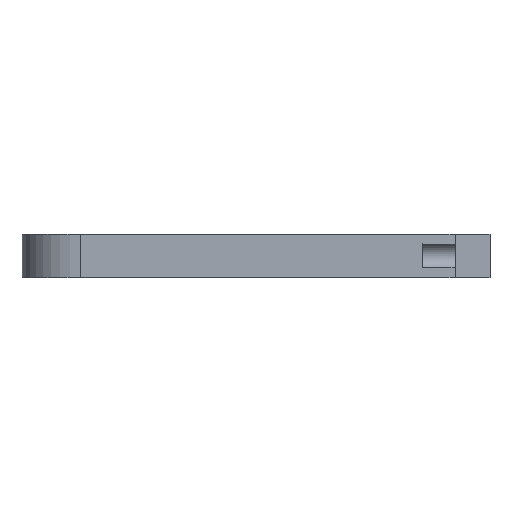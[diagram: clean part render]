
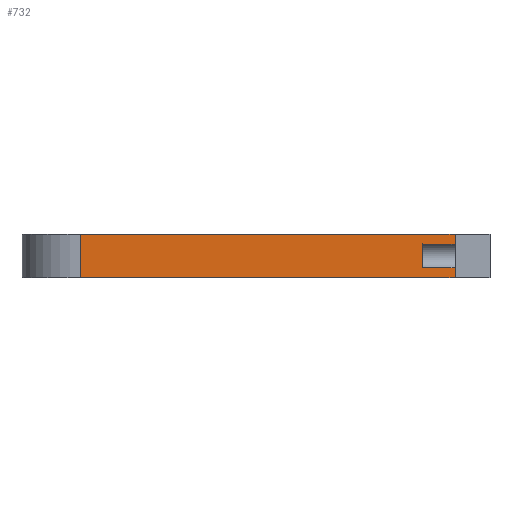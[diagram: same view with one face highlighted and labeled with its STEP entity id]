
A CAD part, front view. The second image highlights one B-rep face of the part: STEP entity #732.
In plain terms, the highlighted planar face has unit normal (0, -1, 0).
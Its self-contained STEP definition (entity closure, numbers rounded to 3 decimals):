
#42 = VERTEX_POINT('',#43);
#43 = CARTESIAN_POINT('',(-3.,-8.5,9.6));
#50 = PLANE('',#51);
#51 = AXIS2_PLACEMENT_3D('',#52,#53,#54);
#52 = CARTESIAN_POINT('',(-3.,-12.,4.8));
#53 = DIRECTION('',(1.,0.,0.));
#54 = DIRECTION('',(0.,0.,1.));
#62 = PLANE('',#63);
#63 = AXIS2_PLACEMENT_3D('',#64,#65,#66);
#64 = CARTESIAN_POINT('',(-3.,-12.,9.6));
#65 = DIRECTION('',(0.,0.,1.));
#66 = DIRECTION('',(1.,0.,-0.));
#441 = VERTEX_POINT('',#442);
#442 = CARTESIAN_POINT('',(-3.,-8.5,61.));
#456 = PLANE('',#457);
#457 = AXIS2_PLACEMENT_3D('',#458,#459,#460);
#458 = CARTESIAN_POINT('',(-3.,-8.5,61.));
#459 = DIRECTION('',(0.,0.,1.));
#460 = DIRECTION('',(1.,0.,-0.));
#468 = EDGE_CURVE('',#42,#441,#469,.T.);
#469 = SURFACE_CURVE('',#470,(#474,#481),.PCURVE_S1.);
#470 = LINE('',#471,#472);
#471 = CARTESIAN_POINT('',(-3.,-8.5,4.8));
#472 = VECTOR('',#473,1.);
#473 = DIRECTION('',(0.,0.,1.));
#474 = PCURVE('',#50,#475);
#475 = DEFINITIONAL_REPRESENTATION('',(#476),#480);
#476 = LINE('',#477,#478);
#477 = CARTESIAN_POINT('',(0.,-3.5));
#478 = VECTOR('',#479,1.);
#479 = DIRECTION('',(1.,0.));
#480 = ( GEOMETRIC_REPRESENTATION_CONTEXT(2) 
PARAMETRIC_REPRESENTATION_CONTEXT() REPRESENTATION_CONTEXT('2D SPACE',''
  ) );
#481 = PCURVE('',#482,#487);
#482 = PLANE('',#483);
#483 = AXIS2_PLACEMENT_3D('',#484,#485,#486);
#484 = CARTESIAN_POINT('',(-3.,-8.5,4.8));
#485 = DIRECTION('',(0.,1.,0.));
#486 = DIRECTION('',(0.,-0.,1.));
#487 = DEFINITIONAL_REPRESENTATION('',(#488),#492);
#488 = LINE('',#489,#490);
#489 = CARTESIAN_POINT('',(0.,0.));
#490 = VECTOR('',#491,1.);
#491 = DIRECTION('',(1.,0.));
#492 = ( GEOMETRIC_REPRESENTATION_CONTEXT(2) 
PARAMETRIC_REPRESENTATION_CONTEXT() REPRESENTATION_CONTEXT('2D SPACE',''
  ) );
#584 = VERTEX_POINT('',#585);
#585 = CARTESIAN_POINT('',(3.,-8.5,9.6));
#599 = PLANE('',#600);
#600 = AXIS2_PLACEMENT_3D('',#601,#602,#603);
#601 = CARTESIAN_POINT('',(3.,-12.,4.8));
#602 = DIRECTION('',(1.,0.,0.));
#603 = DIRECTION('',(0.,0.,1.));
#611 = EDGE_CURVE('',#584,#612,#614,.T.);
#612 = VERTEX_POINT('',#613);
#613 = CARTESIAN_POINT('',(1.625,-8.5,9.6));
#614 = SURFACE_CURVE('',#615,(#619,#626),.PCURVE_S1.);
#615 = LINE('',#616,#617);
#616 = CARTESIAN_POINT('',(-3.,-8.5,9.6));
#617 = VECTOR('',#618,1.);
#618 = DIRECTION('',(-1.,0.,0.));
#619 = PCURVE('',#62,#620);
#620 = DEFINITIONAL_REPRESENTATION('',(#621),#625);
#621 = LINE('',#622,#623);
#622 = CARTESIAN_POINT('',(0.,3.5));
#623 = VECTOR('',#624,1.);
#624 = DIRECTION('',(-1.,0.));
#625 = ( GEOMETRIC_REPRESENTATION_CONTEXT(2) 
PARAMETRIC_REPRESENTATION_CONTEXT() REPRESENTATION_CONTEXT('2D SPACE',''
  ) );
#626 = PCURVE('',#482,#627);
#627 = DEFINITIONAL_REPRESENTATION('',(#628),#632);
#628 = LINE('',#629,#630);
#629 = CARTESIAN_POINT('',(4.8,0.));
#630 = VECTOR('',#631,1.);
#631 = DIRECTION('',(0.,-1.));
#632 = ( GEOMETRIC_REPRESENTATION_CONTEXT(2) 
PARAMETRIC_REPRESENTATION_CONTEXT() REPRESENTATION_CONTEXT('2D SPACE',''
  ) );
#635 = VERTEX_POINT('',#636);
#636 = CARTESIAN_POINT('',(-1.625,-8.5,9.6));
#651 = CYLINDRICAL_SURFACE('',#652,1.7);
#652 = AXIS2_PLACEMENT_3D('',#653,#654,#655);
#653 = CARTESIAN_POINT('',(0.,-8.,2.));
#654 = DIRECTION('',(0.,0.,1.));
#655 = DIRECTION('',(1.,0.,-0.));
#663 = EDGE_CURVE('',#635,#42,#664,.T.);
#664 = SURFACE_CURVE('',#665,(#669,#676),.PCURVE_S1.);
#665 = LINE('',#666,#667);
#666 = CARTESIAN_POINT('',(-3.,-8.5,9.6));
#667 = VECTOR('',#668,1.);
#668 = DIRECTION('',(-1.,0.,0.));
#669 = PCURVE('',#62,#670);
#670 = DEFINITIONAL_REPRESENTATION('',(#671),#675);
#671 = LINE('',#672,#673);
#672 = CARTESIAN_POINT('',(0.,3.5));
#673 = VECTOR('',#674,1.);
#674 = DIRECTION('',(-1.,0.));
#675 = ( GEOMETRIC_REPRESENTATION_CONTEXT(2) 
PARAMETRIC_REPRESENTATION_CONTEXT() REPRESENTATION_CONTEXT('2D SPACE',''
  ) );
#676 = PCURVE('',#482,#677);
#677 = DEFINITIONAL_REPRESENTATION('',(#678),#682);
#678 = LINE('',#679,#680);
#679 = CARTESIAN_POINT('',(4.8,0.));
#680 = VECTOR('',#681,1.);
#681 = DIRECTION('',(0.,-1.));
#682 = ( GEOMETRIC_REPRESENTATION_CONTEXT(2) 
PARAMETRIC_REPRESENTATION_CONTEXT() REPRESENTATION_CONTEXT('2D SPACE',''
  ) );
#732 = ADVANCED_FACE('',(#733),#482,.F.);
#733 = FACE_BOUND('',#734,.F.);
#734 = EDGE_LOOP('',(#735,#758,#759,#781,#809,#829,#830,#831));
#735 = ORIENTED_EDGE('',*,*,#736,.F.);
#736 = EDGE_CURVE('',#584,#737,#739,.T.);
#737 = VERTEX_POINT('',#738);
#738 = CARTESIAN_POINT('',(3.,-8.5,61.));
#739 = SURFACE_CURVE('',#740,(#744,#751),.PCURVE_S1.);
#740 = LINE('',#741,#742);
#741 = CARTESIAN_POINT('',(3.,-8.5,4.8));
#742 = VECTOR('',#743,1.);
#743 = DIRECTION('',(0.,0.,1.));
#744 = PCURVE('',#482,#745);
#745 = DEFINITIONAL_REPRESENTATION('',(#746),#750);
#746 = LINE('',#747,#748);
#747 = CARTESIAN_POINT('',(0.,6.));
#748 = VECTOR('',#749,1.);
#749 = DIRECTION('',(1.,0.));
#750 = ( GEOMETRIC_REPRESENTATION_CONTEXT(2) 
PARAMETRIC_REPRESENTATION_CONTEXT() REPRESENTATION_CONTEXT('2D SPACE',''
  ) );
#751 = PCURVE('',#599,#752);
#752 = DEFINITIONAL_REPRESENTATION('',(#753),#757);
#753 = LINE('',#754,#755);
#754 = CARTESIAN_POINT('',(0.,-3.5));
#755 = VECTOR('',#756,1.);
#756 = DIRECTION('',(1.,0.));
#757 = ( GEOMETRIC_REPRESENTATION_CONTEXT(2) 
PARAMETRIC_REPRESENTATION_CONTEXT() REPRESENTATION_CONTEXT('2D SPACE',''
  ) );
#758 = ORIENTED_EDGE('',*,*,#611,.T.);
#759 = ORIENTED_EDGE('',*,*,#760,.T.);
#760 = EDGE_CURVE('',#612,#761,#763,.T.);
#761 = VERTEX_POINT('',#762);
#762 = CARTESIAN_POINT('',(1.625,-8.5,14.));
#763 = SURFACE_CURVE('',#764,(#768,#775),.PCURVE_S1.);
#764 = LINE('',#765,#766);
#765 = CARTESIAN_POINT('',(1.625,-8.5,2.));
#766 = VECTOR('',#767,1.);
#767 = DIRECTION('',(0.,0.,1.));
#768 = PCURVE('',#482,#769);
#769 = DEFINITIONAL_REPRESENTATION('',(#770),#774);
#770 = LINE('',#771,#772);
#771 = CARTESIAN_POINT('',(-2.8,4.625));
#772 = VECTOR('',#773,1.);
#773 = DIRECTION('',(1.,0.));
#774 = ( GEOMETRIC_REPRESENTATION_CONTEXT(2) 
PARAMETRIC_REPRESENTATION_CONTEXT() REPRESENTATION_CONTEXT('2D SPACE',''
  ) );
#775 = PCURVE('',#651,#776);
#776 = DEFINITIONAL_REPRESENTATION('',(#777),#780);
#777 = B_SPLINE_CURVE_WITH_KNOTS('',1,(#778,#779),.UNSPECIFIED.,.F.,.F.,
  (2,2),(2.46,12.),.PIECEWISE_BEZIER_KNOTS.);
#778 = CARTESIAN_POINT('',(5.985,2.46));
#779 = CARTESIAN_POINT('',(5.985,12.));
#780 = ( GEOMETRIC_REPRESENTATION_CONTEXT(2) 
PARAMETRIC_REPRESENTATION_CONTEXT() REPRESENTATION_CONTEXT('2D SPACE',''
  ) );
#781 = ORIENTED_EDGE('',*,*,#782,.F.);
#782 = EDGE_CURVE('',#783,#761,#785,.T.);
#783 = VERTEX_POINT('',#784);
#784 = CARTESIAN_POINT('',(-1.625,-8.5,14.));
#785 = SURFACE_CURVE('',#786,(#790,#797),.PCURVE_S1.);
#786 = LINE('',#787,#788);
#787 = CARTESIAN_POINT('',(-1.5,-8.5,14.));
#788 = VECTOR('',#789,1.);
#789 = DIRECTION('',(1.,0.,0.));
#790 = PCURVE('',#482,#791);
#791 = DEFINITIONAL_REPRESENTATION('',(#792),#796);
#792 = LINE('',#793,#794);
#793 = CARTESIAN_POINT('',(9.2,1.5));
#794 = VECTOR('',#795,1.);
#795 = DIRECTION('',(0.,1.));
#796 = ( GEOMETRIC_REPRESENTATION_CONTEXT(2) 
PARAMETRIC_REPRESENTATION_CONTEXT() REPRESENTATION_CONTEXT('2D SPACE',''
  ) );
#797 = PCURVE('',#798,#803);
#798 = PLANE('',#799);
#799 = AXIS2_PLACEMENT_3D('',#800,#801,#802);
#800 = CARTESIAN_POINT('',(0.,-8.,14.));
#801 = DIRECTION('',(0.,0.,1.));
#802 = DIRECTION('',(1.,0.,-0.));
#803 = DEFINITIONAL_REPRESENTATION('',(#804),#808);
#804 = LINE('',#805,#806);
#805 = CARTESIAN_POINT('',(-1.5,-0.5));
#806 = VECTOR('',#807,1.);
#807 = DIRECTION('',(1.,0.));
#808 = ( GEOMETRIC_REPRESENTATION_CONTEXT(2) 
PARAMETRIC_REPRESENTATION_CONTEXT() REPRESENTATION_CONTEXT('2D SPACE',''
  ) );
#809 = ORIENTED_EDGE('',*,*,#810,.F.);
#810 = EDGE_CURVE('',#635,#783,#811,.T.);
#811 = SURFACE_CURVE('',#812,(#816,#823),.PCURVE_S1.);
#812 = LINE('',#813,#814);
#813 = CARTESIAN_POINT('',(-1.625,-8.5,2.));
#814 = VECTOR('',#815,1.);
#815 = DIRECTION('',(0.,0.,1.));
#816 = PCURVE('',#482,#817);
#817 = DEFINITIONAL_REPRESENTATION('',(#818),#822);
#818 = LINE('',#819,#820);
#819 = CARTESIAN_POINT('',(-2.8,1.375));
#820 = VECTOR('',#821,1.);
#821 = DIRECTION('',(1.,0.));
#822 = ( GEOMETRIC_REPRESENTATION_CONTEXT(2) 
PARAMETRIC_REPRESENTATION_CONTEXT() REPRESENTATION_CONTEXT('2D SPACE',''
  ) );
#823 = PCURVE('',#651,#824);
#824 = DEFINITIONAL_REPRESENTATION('',(#825),#828);
#825 = B_SPLINE_CURVE_WITH_KNOTS('',1,(#826,#827),.UNSPECIFIED.,.F.,.F.,
  (2,2),(2.46,12.),.PIECEWISE_BEZIER_KNOTS.);
#826 = CARTESIAN_POINT('',(3.44,2.46));
#827 = CARTESIAN_POINT('',(3.44,12.));
#828 = ( GEOMETRIC_REPRESENTATION_CONTEXT(2) 
PARAMETRIC_REPRESENTATION_CONTEXT() REPRESENTATION_CONTEXT('2D SPACE',''
  ) );
#829 = ORIENTED_EDGE('',*,*,#663,.T.);
#830 = ORIENTED_EDGE('',*,*,#468,.T.);
#831 = ORIENTED_EDGE('',*,*,#832,.T.);
#832 = EDGE_CURVE('',#441,#737,#833,.T.);
#833 = SURFACE_CURVE('',#834,(#838,#845),.PCURVE_S1.);
#834 = LINE('',#835,#836);
#835 = CARTESIAN_POINT('',(-3.,-8.5,61.));
#836 = VECTOR('',#837,1.);
#837 = DIRECTION('',(1.,0.,0.));
#838 = PCURVE('',#482,#839);
#839 = DEFINITIONAL_REPRESENTATION('',(#840),#844);
#840 = LINE('',#841,#842);
#841 = CARTESIAN_POINT('',(56.2,0.));
#842 = VECTOR('',#843,1.);
#843 = DIRECTION('',(0.,1.));
#844 = ( GEOMETRIC_REPRESENTATION_CONTEXT(2) 
PARAMETRIC_REPRESENTATION_CONTEXT() REPRESENTATION_CONTEXT('2D SPACE',''
  ) );
#845 = PCURVE('',#456,#846);
#846 = DEFINITIONAL_REPRESENTATION('',(#847),#851);
#847 = LINE('',#848,#849);
#848 = CARTESIAN_POINT('',(0.,0.));
#849 = VECTOR('',#850,1.);
#850 = DIRECTION('',(1.,0.));
#851 = ( GEOMETRIC_REPRESENTATION_CONTEXT(2) 
PARAMETRIC_REPRESENTATION_CONTEXT() REPRESENTATION_CONTEXT('2D SPACE',''
  ) );
